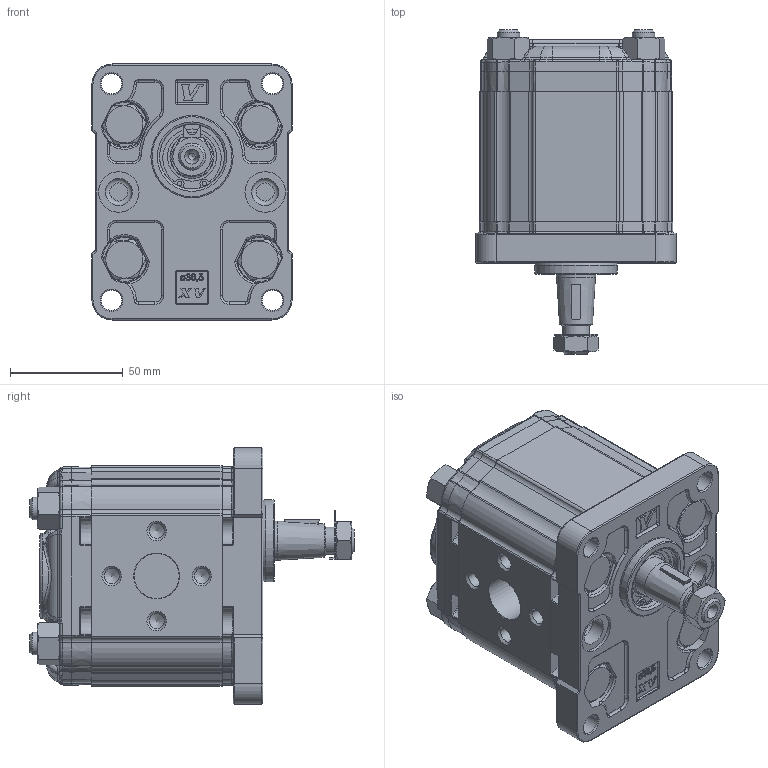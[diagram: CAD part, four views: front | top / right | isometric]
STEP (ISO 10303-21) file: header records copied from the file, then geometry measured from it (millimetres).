
FILE_DESCRIPTION(/* description */ ('Unknown'),/* implementation_level */ '2;1');
FILE_NAME(/* name */ 'X2P4701EPPA',/* time_stamp */ '2021-12-02T08:35:32+01:00',/* author */ ('Unknown'),/* organization */ ('Unknown'),/* preprocessor_version */ 'ST-DEVELOPER v16.7',/* originating_system */ 'Solid Edge',/* authorisation */ 'Unknown');
FILE_SCHEMA (('AUTOMOTIVE_DESIGN {1 0 10303 214 3 1 1}'));
Products named in the file (5): X2P4701EPPA; X2P01; 2E; X2PPH58; XP201-A
Assembly tree (4 placements, depth 2):
  X2P4701EPPA
    X2P01
    2E
    X2PPH58
    XP201-A
Bounding box: 89 x 143.95 x 113.7 mm (x, y, z)
Volume: 718131.3 mm3; surface area: 116228.8 mm2
Topology: 4 solids, 5 shells, 2078 faces, 5122 edges, 3121 vertices
Faces by surface type: cylinder 617, plane 543, bspline 492, torus 247, cone 163, sphere 16
Full cylindrical faces by diameter (mm): 2 x2, 6.647 x8, 9 x4, 10 x8, 10.5 x4, 11.5 x4, 12 x4, 12.5 x1, 16 x4, 17.42 x1, 17.48 x2, 18 x2, 18.724 x1, 20 x2, 20.595 x1, 21.741 x1, 25.834 x1, 28.56 x1, 28.57 x1, 28.8 x1, 30.5 x1, 36.5 x1
Entity records: 87508 total; most frequent: CARTESIAN_POINT 28385, ORIENTED_EDGE 9770, DIRECTION 8218, EDGE_CURVE 4885, AXIS2_PLACEMENT_3D 3171, VERTEX_POINT 3058, FACE_BOUND 2349, EDGE_LOOP 2339
